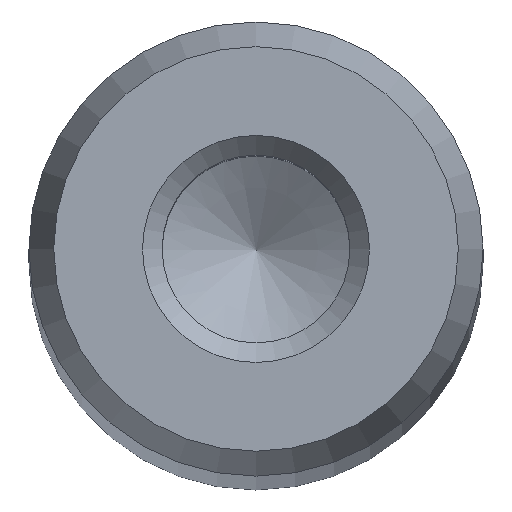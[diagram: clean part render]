
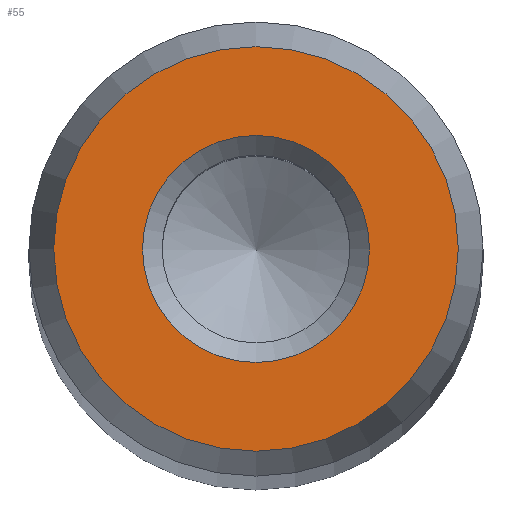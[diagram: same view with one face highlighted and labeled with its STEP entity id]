
A CAD part, top view. The second image highlights one B-rep face of the part: STEP entity #55.
In plain terms, the highlighted planar face has unit normal (0, 0, 1).
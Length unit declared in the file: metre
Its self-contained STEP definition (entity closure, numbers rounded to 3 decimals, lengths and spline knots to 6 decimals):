
#55 = ADVANCED_FACE( '', ( #116, #117 ), #118, .T. );
#116 = FACE_OUTER_BOUND( '', #175, .T. );
#117 = FACE_BOUND( '', #176, .T. );
#118 = PLANE( '', #177 );
#175 = EDGE_LOOP( '', ( #246 ) );
#176 = EDGE_LOOP( '', ( #247 ) );
#177 = AXIS2_PLACEMENT_3D( '', #248, #249, #250 );
#246 = ORIENTED_EDGE( '', *, *, #287, .T. );
#247 = ORIENTED_EDGE( '', *, *, #289, .T. );
#248 = CARTESIAN_POINT( '', ( 0., 0., 0.177 ) );
#249 = DIRECTION( '', ( 0., 0., 1. ) );
#250 = DIRECTION( '', ( 1., 0., 0. ) );
#287 = EDGE_CURVE( '', #322, #322, #323, .T. );
#289 = EDGE_CURVE( '', #325, #325, #326, .T. );
#322 = VERTEX_POINT( '', #359 );
#323 = CIRCLE( '', #360, 0.004454 );
#325 = VERTEX_POINT( '', #362 );
#326 = CIRCLE( '', #363, 0.0025 );
#359 = CARTESIAN_POINT( '', ( 0.004454, 0., 0.177 ) );
#360 = AXIS2_PLACEMENT_3D( '', #397, #398, #399 );
#362 = CARTESIAN_POINT( '', ( 0.0025, 0., 0.177 ) );
#363 = AXIS2_PLACEMENT_3D( '', #400, #401, #402 );
#397 = CARTESIAN_POINT( '', ( 0., 0., 0.177 ) );
#398 = DIRECTION( '', ( 0., 0., 1. ) );
#399 = DIRECTION( '', ( 1., 0., 0. ) );
#400 = CARTESIAN_POINT( '', ( 0., 0., 0.177 ) );
#401 = DIRECTION( '', ( 0., 0., -1. ) );
#402 = DIRECTION( '', ( 1., 0., 0. ) );
